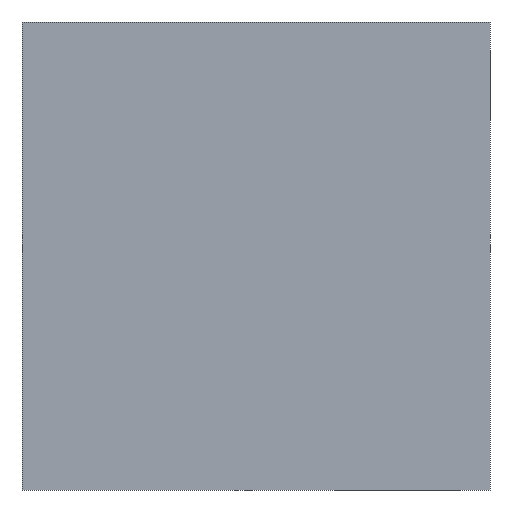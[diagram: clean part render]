
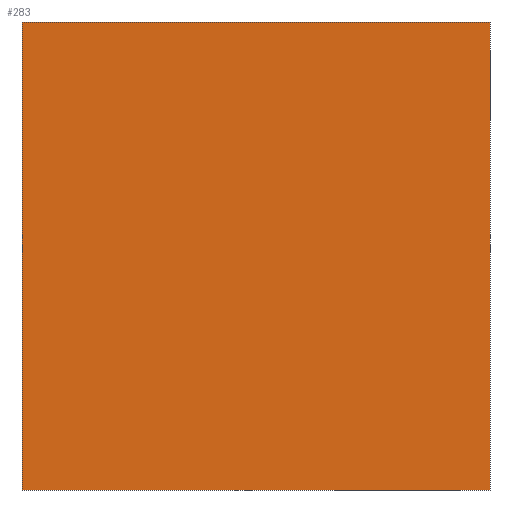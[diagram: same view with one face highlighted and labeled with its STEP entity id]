
A CAD part, front view. The second image highlights one B-rep face of the part: STEP entity #283.
In plain terms, the highlighted planar face has unit normal (0, -1, 0).
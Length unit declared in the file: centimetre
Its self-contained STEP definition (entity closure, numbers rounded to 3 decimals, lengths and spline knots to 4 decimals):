
#16 = DIRECTION ( 'NONE',  ( 0., 1., 0. ) ) ;
#19 = CARTESIAN_POINT ( 'NONE',  ( 1000., 0., 1000. ) ) ;
#29 = LINE ( 'NONE', #184, #337 ) ;
#38 = EDGE_CURVE ( 'NONE', #228, #240, #49, .T. ) ;
#43 = DIRECTION ( 'NONE',  ( 1., 0., 0. ) ) ;
#49 = LINE ( 'NONE', #548, #459 ) ;
#87 = LINE ( 'NONE', #417, #442 ) ;
#96 = VECTOR ( 'NONE', #113, 100. ) ;
#111 = CARTESIAN_POINT ( 'NONE',  ( 0., 0., 1000. ) ) ;
#113 = DIRECTION ( 'NONE',  ( 0., 0., -1. ) ) ;
#134 = CARTESIAN_POINT ( 'NONE',  ( 0., 0., 0. ) ) ;
#154 = FACE_OUTER_BOUND ( 'NONE', #515, .T. ) ;
#170 = ORIENTED_EDGE ( 'NONE', *, *, #38, .F. ) ;
#184 = CARTESIAN_POINT ( 'NONE',  ( 0., 0., 1000. ) ) ;
#198 = ORIENTED_EDGE ( 'NONE', *, *, #234, .F. ) ;
#228 = VERTEX_POINT ( 'NONE', #332 ) ;
#234 = EDGE_CURVE ( 'NONE', #240, #408, #439, .T. ) ;
#240 = VERTEX_POINT ( 'NONE', #483 ) ;
#283 = ADVANCED_FACE ( 'NONE', ( #154 ), #346, .F. ) ;
#307 = VERTEX_POINT ( 'NONE', #134 ) ;
#332 = CARTESIAN_POINT ( 'NONE',  ( 0., 0., 1000. ) ) ;
#337 = VECTOR ( 'NONE', #492, 100. ) ;
#345 = CARTESIAN_POINT ( 'NONE',  ( 1000., 0., 0. ) ) ;
#346 = PLANE ( 'NONE',  #500 ) ;
#408 = VERTEX_POINT ( 'NONE', #345 ) ;
#414 = DIRECTION ( 'NONE',  ( 1., 0., 0. ) ) ;
#417 = CARTESIAN_POINT ( 'NONE',  ( 0., 0., 0. ) ) ;
#430 = ORIENTED_EDGE ( 'NONE', *, *, #590, .T. ) ;
#436 = ORIENTED_EDGE ( 'NONE', *, *, #513, .T. ) ;
#439 = LINE ( 'NONE', #19, #96 ) ;
#442 = VECTOR ( 'NONE', #414, 100. ) ;
#459 = VECTOR ( 'NONE', #43, 100. ) ;
#483 = CARTESIAN_POINT ( 'NONE',  ( 1000., 0., 1000. ) ) ;
#492 = DIRECTION ( 'NONE',  ( 0., 0., -1. ) ) ;
#500 = AXIS2_PLACEMENT_3D ( 'NONE', #111, #16, #540 ) ;
#513 = EDGE_CURVE ( 'NONE', #307, #408, #87, .T. ) ;
#515 = EDGE_LOOP ( 'NONE', ( #436, #198, #170, #430 ) ) ;
#540 = DIRECTION ( 'NONE',  ( 0., 0., 1. ) ) ;
#548 = CARTESIAN_POINT ( 'NONE',  ( 0., 0., 1000. ) ) ;
#590 = EDGE_CURVE ( 'NONE', #228, #307, #29, .T. ) ;
